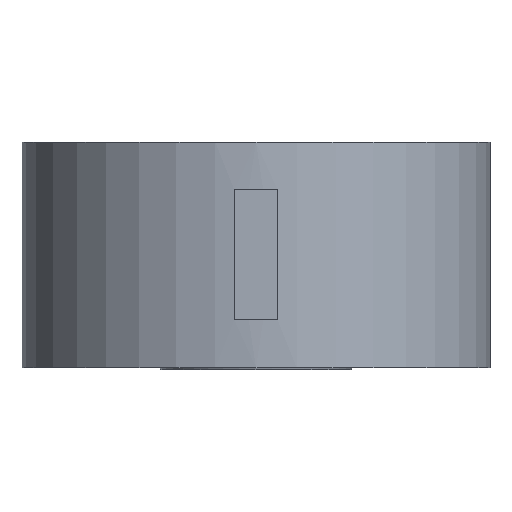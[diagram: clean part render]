
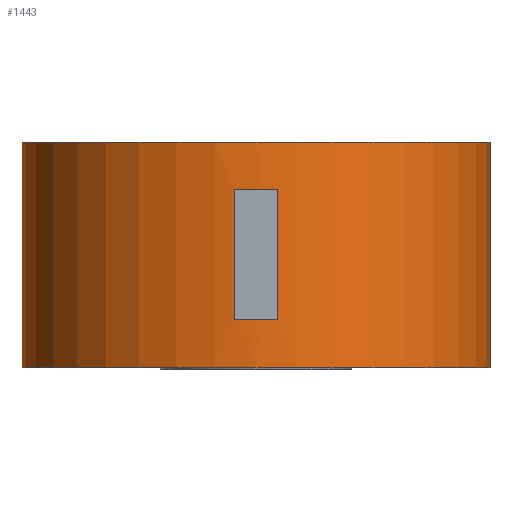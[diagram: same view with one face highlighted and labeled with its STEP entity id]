
A CAD part, front view. The second image highlights one B-rep face of the part: STEP entity #1443.
In plain terms, the highlighted cylindrical face has radius 27 mm (diameter 54 mm), a partial arc.
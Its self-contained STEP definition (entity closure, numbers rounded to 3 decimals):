
#70 = DIRECTION ( 'NONE',  ( 0., 0., 1. ) ) ;
#102 = VERTEX_POINT ( 'NONE', #6410 ) ;
#183 = ORIENTED_EDGE ( 'NONE', *, *, #5685, .F. ) ;
#227 = AXIS2_PLACEMENT_3D ( 'NONE', #5651, #264, #6085 ) ;
#264 = DIRECTION ( 'NONE',  ( 0., 0., -1. ) ) ;
#377 = CARTESIAN_POINT ( 'NONE',  ( -27., 0., 13. ) ) ;
#457 = DIRECTION ( 'NONE',  ( -1., 0., 0. ) ) ;
#468 = VECTOR ( 'NONE', #2861, 1000. ) ;
#625 = CIRCLE ( 'NONE', #2818, 27. ) ;
#795 = VECTOR ( 'NONE', #2377, 1000. ) ;
#992 = DIRECTION ( 'NONE',  ( 0., 0., -1. ) ) ;
#1174 = DIRECTION ( 'NONE',  ( 0., 0., 1. ) ) ;
#1216 = CARTESIAN_POINT ( 'NONE',  ( 2.5, -26.884, 7.5 ) ) ;
#1354 = DIRECTION ( 'NONE',  ( 0., 0., -1. ) ) ;
#1425 = ORIENTED_EDGE ( 'NONE', *, *, #2722, .F. ) ;
#1443 = ADVANCED_FACE ( 'NONE', ( #1908, #2254 ), #4521, .T. ) ;
#1684 = DIRECTION ( 'NONE',  ( 1., 0., 0. ) ) ;
#1907 = EDGE_LOOP ( 'NONE', ( #183, #5579, #6621, #4506 ) ) ;
#1908 = FACE_OUTER_BOUND ( 'NONE', #3895, .T. ) ;
#2012 = ORIENTED_EDGE ( 'NONE', *, *, #2250, .T. ) ;
#2250 = EDGE_CURVE ( 'NONE', #6244, #4211, #4060, .T. ) ;
#2251 = VERTEX_POINT ( 'NONE', #1216 ) ;
#2254 = FACE_BOUND ( 'NONE', #1907, .T. ) ;
#2342 = CARTESIAN_POINT ( 'NONE',  ( 27., 0., 13. ) ) ;
#2367 = EDGE_CURVE ( 'NONE', #3487, #4143, #6703, .T. ) ;
#2377 = DIRECTION ( 'NONE',  ( 0., 0., -1. ) ) ;
#2722 = EDGE_CURVE ( 'NONE', #6244, #3487, #2881, .T. ) ;
#2807 = VECTOR ( 'NONE', #6273, 1000. ) ;
#2818 = AXIS2_PLACEMENT_3D ( 'NONE', #3700, #992, #457 ) ;
#2861 = DIRECTION ( 'NONE',  ( 0., 0., 1. ) ) ;
#2881 = CIRCLE ( 'NONE', #3792, 27. ) ;
#2899 = CARTESIAN_POINT ( 'NONE',  ( 27., 0., 13. ) ) ;
#2930 = AXIS2_PLACEMENT_3D ( 'NONE', #3952, #5508, #1684 ) ;
#3276 = CARTESIAN_POINT ( 'NONE',  ( -27., 0., -13. ) ) ;
#3385 = CARTESIAN_POINT ( 'NONE',  ( -27., 0., 13. ) ) ;
#3434 = EDGE_CURVE ( 'NONE', #6119, #5581, #4511, .T. ) ;
#3487 = VERTEX_POINT ( 'NONE', #2899 ) ;
#3659 = CARTESIAN_POINT ( 'NONE',  ( 0., 0., 7.5 ) ) ;
#3700 = CARTESIAN_POINT ( 'NONE',  ( 0., 0., -7.5 ) ) ;
#3742 = CARTESIAN_POINT ( 'NONE',  ( 27., 0., -13. ) ) ;
#3792 = AXIS2_PLACEMENT_3D ( 'NONE', #3915, #1174, #5582 ) ;
#3895 = EDGE_LOOP ( 'NONE', ( #5574, #1425, #2012, #4198 ) ) ;
#3915 = CARTESIAN_POINT ( 'NONE',  ( 0., 0., 13. ) ) ;
#3952 = CARTESIAN_POINT ( 'NONE',  ( 0., 0., -13. ) ) ;
#4060 = LINE ( 'NONE', #3385, #2807 ) ;
#4143 = VERTEX_POINT ( 'NONE', #3742 ) ;
#4198 = ORIENTED_EDGE ( 'NONE', *, *, #5851, .T. ) ;
#4211 = VERTEX_POINT ( 'NONE', #3276 ) ;
#4325 = EDGE_CURVE ( 'NONE', #102, #2251, #5007, .T. ) ;
#4506 = ORIENTED_EDGE ( 'NONE', *, *, #3434, .T. ) ;
#4511 = LINE ( 'NONE', #6778, #468 ) ;
#4521 = CYLINDRICAL_SURFACE ( 'NONE', #227, 27. ) ;
#4527 = CIRCLE ( 'NONE', #6371, 27. ) ;
#4594 = CARTESIAN_POINT ( 'NONE',  ( -2.5, -26.884, -7.5 ) ) ;
#5007 = LINE ( 'NONE', #6063, #6923 ) ;
#5114 = CIRCLE ( 'NONE', #2930, 27. ) ;
#5251 = DIRECTION ( 'NONE',  ( -1., 0., 0. ) ) ;
#5508 = DIRECTION ( 'NONE',  ( 0., 0., 1. ) ) ;
#5574 = ORIENTED_EDGE ( 'NONE', *, *, #2367, .F. ) ;
#5579 = ORIENTED_EDGE ( 'NONE', *, *, #4325, .F. ) ;
#5581 = VERTEX_POINT ( 'NONE', #5703 ) ;
#5582 = DIRECTION ( 'NONE',  ( 1., 0., 0. ) ) ;
#5651 = CARTESIAN_POINT ( 'NONE',  ( 0., 0., 13. ) ) ;
#5685 = EDGE_CURVE ( 'NONE', #2251, #5581, #4527, .T. ) ;
#5703 = CARTESIAN_POINT ( 'NONE',  ( -2.5, -26.884, 7.5 ) ) ;
#5851 = EDGE_CURVE ( 'NONE', #4211, #4143, #5114, .T. ) ;
#6063 = CARTESIAN_POINT ( 'NONE',  ( 2.5, -26.884, 13. ) ) ;
#6085 = DIRECTION ( 'NONE',  ( -1., 0., 0. ) ) ;
#6119 = VERTEX_POINT ( 'NONE', #4594 ) ;
#6244 = VERTEX_POINT ( 'NONE', #377 ) ;
#6273 = DIRECTION ( 'NONE',  ( 0., 0., -1. ) ) ;
#6371 = AXIS2_PLACEMENT_3D ( 'NONE', #3659, #1354, #5251 ) ;
#6410 = CARTESIAN_POINT ( 'NONE',  ( 2.5, -26.884, -7.5 ) ) ;
#6621 = ORIENTED_EDGE ( 'NONE', *, *, #7067, .T. ) ;
#6703 = LINE ( 'NONE', #2342, #795 ) ;
#6778 = CARTESIAN_POINT ( 'NONE',  ( -2.5, -26.884, 13. ) ) ;
#6923 = VECTOR ( 'NONE', #70, 1000. ) ;
#7067 = EDGE_CURVE ( 'NONE', #102, #6119, #625, .T. ) ;
